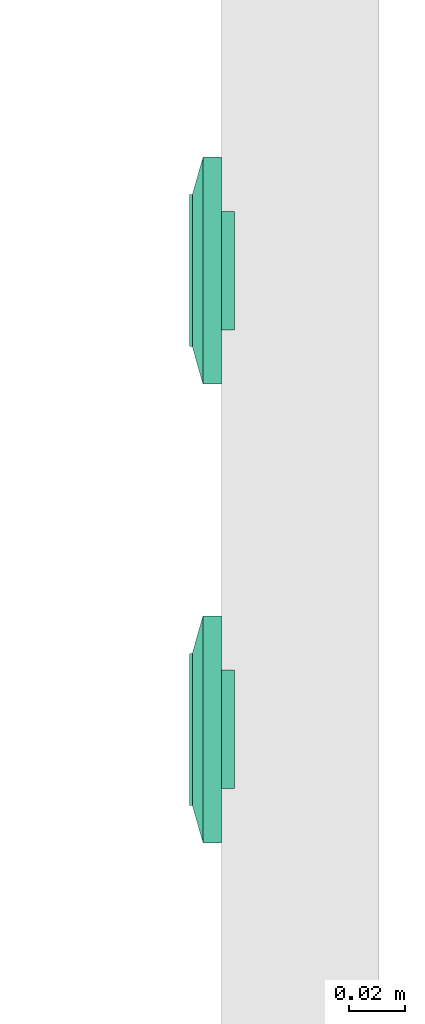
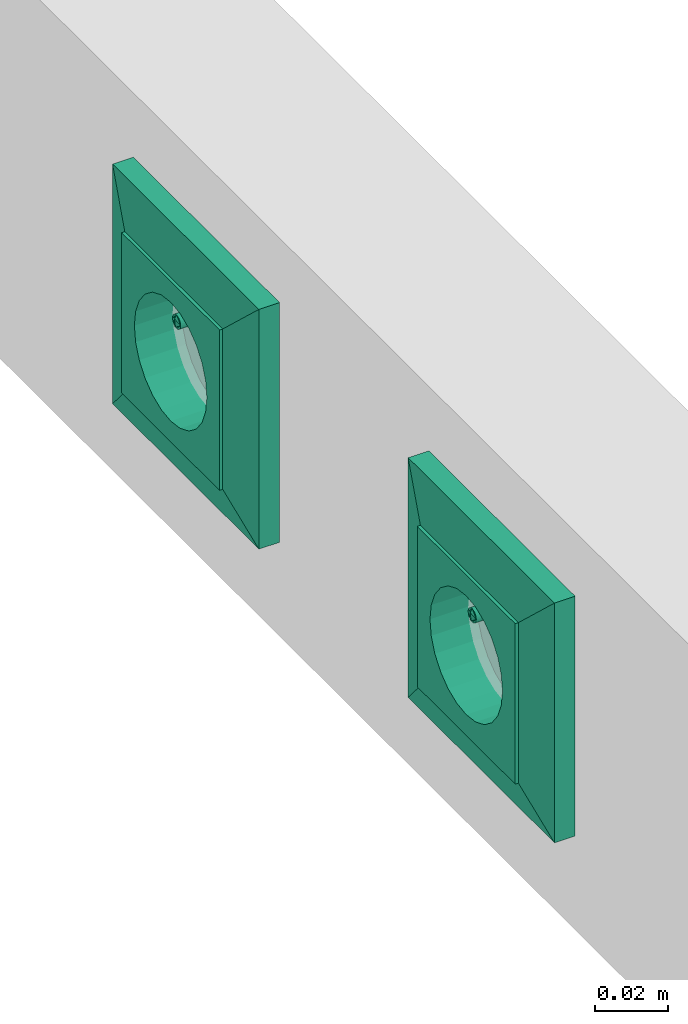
# One storey, part 20 of 166: 2 flow terminals.
"""IFC2X3 building model written with IfcOpenShell, lengths in metres."""

from ifc_helpers import new_model, entity, si_unit, converted_unit, derived_unit, direction, frame, origin, place, context, subcontext, project, spatial, face_set, surface_model, source, transform, mapped, type_object, type_shapes, element, save


model = new_model("IFC2X3")

# Units and contexts
model_context = context("Model", 3, precision=1e-05, world=origin(), true_north=direction((6.12303176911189e-17, 1.0)))
body_context = subcontext(model_context, "Body", "Model", "MODEL_VIEW")
ifc_project = project(units=[si_unit("LENGTHUNIT", "METRE"), si_unit("AREAUNIT", "SQUARE_METRE"), si_unit("VOLUMEUNIT", "CUBIC_METRE"), converted_unit("PLANEANGLEUNIT", "DEGREE", entity("IfcRatioMeasure", 0.0174532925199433), si_unit("PLANEANGLEUNIT", "RADIAN"), dimensions=[0, 0, 0, 0, 0, 0, 0]), si_unit("MASSUNIT", "GRAM", prefix="KILO"), derived_unit("MASSDENSITYUNIT", [(si_unit("MASSUNIT", "GRAM", prefix="KILO"), 1), (si_unit("LENGTHUNIT", "METRE"), -3)]), si_unit("TIMEUNIT", "SECOND"), si_unit("FREQUENCYUNIT", "HERTZ"), si_unit("THERMODYNAMICTEMPERATUREUNIT", "DEGREE_CELSIUS"), derived_unit("THERMALTRANSMITTANCEUNIT", [(si_unit("MASSUNIT", "GRAM", prefix="KILO"), 1), (si_unit("THERMODYNAMICTEMPERATUREUNIT", "KELVIN"), -1), (si_unit("TIMEUNIT", "SECOND"), -3)]), derived_unit("VOLUMETRICFLOWRATEUNIT", [(si_unit("LENGTHUNIT", "METRE"), 3), (si_unit("TIMEUNIT", "SECOND"), -1)]), si_unit("ELECTRICCURRENTUNIT", "AMPERE"), si_unit("ELECTRICVOLTAGEUNIT", "VOLT"), si_unit("POWERUNIT", "WATT"), si_unit("FORCEUNIT", "NEWTON"), si_unit("ILLUMINANCEUNIT", "LUX"), si_unit("LUMINOUSFLUXUNIT", "LUMEN"), si_unit("LUMINOUSINTENSITYUNIT", "CANDELA"), derived_unit("USERDEFINED", [(si_unit("MASSUNIT", "GRAM", prefix="KILO"), -1), (si_unit("LENGTHUNIT", "METRE"), -2), (si_unit("TIMEUNIT", "SECOND"), 3), (si_unit("LUMINOUSFLUXUNIT", "LUMEN"), 1)]), derived_unit("LINEARVELOCITYUNIT", [(si_unit("LENGTHUNIT", "METRE"), 1), (si_unit("TIMEUNIT", "SECOND"), -1)]), si_unit("PRESSUREUNIT", "PASCAL"), derived_unit("USERDEFINED", [(si_unit("LENGTHUNIT", "METRE"), -2), (si_unit("MASSUNIT", "GRAM", prefix="KILO"), 1), (si_unit("TIMEUNIT", "SECOND"), -2)])], contexts=[model_context])

# Site, building, storey
site_placement = place(None, origin())
site = spatial("IfcSite", under=ifc_project, at=site_placement, Name="Default", CompositionType="ELEMENT")
building_placement = place(site_placement, origin())
building = spatial("IfcBuilding", under=site, at=building_placement, CompositionType="ELEMENT")
storey_placement = place(building_placement, frame((0.0, 0.0, 4.27)))
storey = spatial("IfcBuildingStorey", under=building, at=storey_placement, Name="01", CompositionType="ELEMENT", Elevation=4.27)

# Flow terminals
light_fixture_type = type_object("IfcLightFixtureType", Name="PC IP20", PredefinedType="NOTDEFINED")
shared_shape = source(origin(), body_context, "Body", "SurfaceModel", [
    surface_model("IfcFaceBasedSurfaceModel", [(-0.00225000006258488, 0.0127499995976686, 0.00949633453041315), (0.0, 0.0104999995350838, 0.00949633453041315), (0.0, 0.0115376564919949, 0.0101656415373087), (0.0, 0.0139623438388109, 0.0101656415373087), (0.0, 0.0144589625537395, 0.00984531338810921), (0.0, 0.0121178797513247, 0.0102778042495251), (0.0, 0.0133821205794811, 0.0102778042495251), (0.0, 0.0127499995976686, 0.010399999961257), (0.0, 0.0149999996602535, 0.00949633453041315), (0.00225000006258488, 0.0127499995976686, 0.00949633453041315), (0.0, 0.0110410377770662, 0.00984531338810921), (0.0, 0.0127499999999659, 0.00949633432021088), (0.00225000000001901, 0.0127499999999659, 0.00949633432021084), (0.00217333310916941, 0.0121676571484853, 0.00949633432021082), (0.00194855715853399, 0.0116249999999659, 0.00949633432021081), (0.00159099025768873, 0.0111590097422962, 0.00949633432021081), (0.001125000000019, 0.010801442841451, 0.00949633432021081), (0.00058234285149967, 0.0105766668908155, 0.00949633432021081), (0.0, 0.0104999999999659, 0.00949633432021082), (-0.000582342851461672, 0.0105766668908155, 0.00949633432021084), (-0.001124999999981, 0.010801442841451, 0.00949633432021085), (-0.00159099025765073, 0.0111590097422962, 0.00949633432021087), (-0.00194855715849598, 0.011624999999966, 0.00949633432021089), (-0.0021733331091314, 0.0121676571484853, 0.00949633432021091), (-0.00224999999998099, 0.012749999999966, 0.00949633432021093), (-0.00217333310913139, 0.0133323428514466, 0.00949633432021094), (-0.00194855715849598, 0.013874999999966, 0.00949633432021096), (-0.00159099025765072, 0.0143409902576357, 0.00949633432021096), (-0.00112499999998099, 0.0146985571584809, 0.00949633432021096), (-0.00058234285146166, 0.0149233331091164, 0.00949633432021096), (0.0, 0.0149999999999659, 0.00949633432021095), (0.000582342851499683, 0.0149233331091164, 0.00949633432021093), (0.00112500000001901, 0.0146985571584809, 0.00949633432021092), (0.00159099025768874, 0.0143409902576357, 0.00949633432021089), (0.001948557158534, 0.0138749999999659, 0.00949633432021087), (0.00217333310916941, 0.0133323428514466, 0.00949633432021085), (0.00225000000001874, 0.0127499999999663, -0.00360000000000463), (0.00217333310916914, 0.0121676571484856, -0.00360000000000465), (0.00194855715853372, 0.0116249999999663, -0.00360000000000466), (0.00159099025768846, 0.0111590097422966, -0.00360000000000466), (0.00112500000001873, 0.0108014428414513, -0.00360000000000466), (0.000582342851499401, 0.0105766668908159, -0.00360000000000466), (0.0, 0.0104999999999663, -0.00360000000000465), (-0.000582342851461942, 0.0105766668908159, -0.00360000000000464), (-0.00112499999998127, 0.0108014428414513, -0.00360000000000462), (-0.001590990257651, 0.0111590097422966, -0.0036000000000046), (-0.00194855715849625, 0.0116249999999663, -0.00360000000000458), (-0.00217333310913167, 0.0121676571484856, -0.00360000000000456), (-0.00224999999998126, 0.0127499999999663, -0.00360000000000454), (-0.00217333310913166, 0.013332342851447, -0.00360000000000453), (-0.00194855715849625, 0.0138749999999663, -0.00360000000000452), (-0.00159099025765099, 0.014340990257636, -0.00360000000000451), (-0.00112499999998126, 0.0146985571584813, -0.00360000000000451), (-0.000582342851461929, 0.0149233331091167, -0.00360000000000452), (0.0, 0.0149999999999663, -0.00360000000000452), (0.000582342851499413, 0.0149233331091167, -0.00360000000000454), (0.00112500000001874, 0.0146985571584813, -0.00360000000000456), (0.00159099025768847, 0.014340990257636, -0.00360000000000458), (0.00194855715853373, 0.0138749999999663, -0.0036000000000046), (0.00217333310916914, 0.013332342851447, -0.00360000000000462), (0.0270000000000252, 0.026999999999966, 0.0113999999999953), (-0.0269999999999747, 0.026999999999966, 0.0113999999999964), (-0.0269999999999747, -0.0270000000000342, 0.0113999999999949), (0.0270000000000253, -0.0270000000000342, 0.0113999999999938), (-0.0199999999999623, 0.0, 0.0113999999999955), (-0.0193185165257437, -0.00517638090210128, 0.0113999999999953), (-0.0173205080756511, -0.0100000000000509, 0.0113999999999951), (-0.0141421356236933, -0.0141421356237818, 0.011399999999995), (-0.00999999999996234, -0.0173205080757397, 0.0113999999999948), (-0.00517638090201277, -0.0193185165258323, 0.0113999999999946), (0.0, -0.0200000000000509, 0.0113999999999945), (0.00517638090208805, -0.0193185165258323, 0.0113999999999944), (0.0100000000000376, -0.0173205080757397, 0.0113999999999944), (0.0141421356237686, -0.0141421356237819, 0.0113999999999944), (0.0173205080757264, -0.010000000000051, 0.0113999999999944), (0.0193185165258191, -0.00517638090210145, 0.0113999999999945), (0.0200000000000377, 0.0, 0.0113999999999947), (0.0193185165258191, 0.00517638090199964, 0.0113999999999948), (0.0173205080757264, 0.0099999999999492, 0.011399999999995), (0.0141421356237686, 0.0141421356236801, 0.0113999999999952), (0.0100000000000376, 0.0173205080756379, 0.0113999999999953), (0.00517638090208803, 0.0193185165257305, 0.0113999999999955), (0.0, 0.0199999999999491, 0.0113999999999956), (-0.00517638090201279, 0.0193185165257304, 0.0113999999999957), (-0.00999999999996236, 0.0173205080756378, 0.0113999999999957), (-0.0141421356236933, 0.01414213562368, 0.0113999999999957), (-0.0173205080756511, 0.00999999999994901, 0.0113999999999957), (-0.0193185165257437, 0.00517638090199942, 0.0113999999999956), (0.0270000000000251, 0.0269999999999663, 0.00199999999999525), (0.0270000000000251, -0.0270000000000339, 0.00199999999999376), (-0.0269999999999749, -0.0270000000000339, 0.00199999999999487), (-0.0269999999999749, 0.0269999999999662, 0.00199999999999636), (0.0210000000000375, 0.0, 0.00199999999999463), (0.0202844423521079, -0.00543519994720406, 0.00199999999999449), (0.0181865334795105, -0.0105000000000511, 0.0019999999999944), (0.0148492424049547, -0.0148492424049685, 0.00199999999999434), (0.0105000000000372, -0.0181865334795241, 0.00199999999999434), (0.0054351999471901, -0.0202844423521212, 0.00199999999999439), (0.0, -0.0210000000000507, 0.00199999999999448), (-0.00543519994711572, -0.020284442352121, 0.00199999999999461), (-0.0104999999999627, -0.0181865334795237, 0.00199999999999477), (-0.0148492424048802, -0.014849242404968, 0.00199999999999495), (-0.0181865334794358, -0.0105000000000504, 0.00199999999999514), (-0.020284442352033, -0.00543519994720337, 0.00199999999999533), (-0.0209999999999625, 0.0, 0.00199999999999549), (-0.0202844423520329, 0.0054351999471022, 0.00199999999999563), (-0.0181865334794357, 0.0104999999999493, 0.00199999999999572), (-0.01484924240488, 0.0148492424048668, 0.00199999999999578), (-0.0104999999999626, 0.0181865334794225, 0.00199999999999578), (-0.00543519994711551, 0.0202844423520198, 0.00199999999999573), (0.0, 0.0209999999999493, 0.00199999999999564), (0.00543519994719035, 0.0202844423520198, 0.00199999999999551), (0.0105000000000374, 0.0181865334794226, 0.00199999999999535), (0.0148492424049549, 0.0148492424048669, 0.00199999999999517), (0.0181865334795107, 0.0104999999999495, 0.00199999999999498), (0.0202844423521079, 0.00543519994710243, 0.00199999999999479), (0.0200000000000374, 0.0, -0.00360000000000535), (0.0193185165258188, -0.00517638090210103, -0.00360000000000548), (0.0173205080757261, -0.0100000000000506, -0.00360000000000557), (0.0141421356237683, -0.0141421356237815, -0.00360000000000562), (0.0100000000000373, -0.0173205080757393, -0.00360000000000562), (0.00517638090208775, -0.0193185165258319, -0.00360000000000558), (0.0, -0.0200000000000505, -0.00360000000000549), (-0.00517638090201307, -0.0193185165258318, -0.00360000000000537), (-0.00999999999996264, -0.0173205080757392, -0.00360000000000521), (-0.0141421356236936, -0.0141421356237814, -0.00360000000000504), (-0.0173205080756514, -0.0100000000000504, -0.00360000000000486), (-0.019318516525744, -0.00517638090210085, -0.00360000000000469), (-0.0199999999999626, 0.0, -0.00360000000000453), (-0.0193185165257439, 0.00517638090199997, -0.0036000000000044), (-0.0173205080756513, 0.00999999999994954, -0.00360000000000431), (-0.0141421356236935, 0.0141421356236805, -0.00360000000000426), (-0.00999999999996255, 0.0173205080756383, -0.00360000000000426), (-0.00517638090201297, 0.0193185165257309, -0.0036000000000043), (0.0, 0.0199999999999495, -0.00360000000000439), (0.00517638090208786, 0.0193185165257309, -0.00360000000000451), (0.0100000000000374, 0.0173205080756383, -0.00360000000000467), (0.0141421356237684, 0.0141421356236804, -0.00360000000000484), (0.0173205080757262, 0.0099999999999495, -0.00360000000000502), (0.0193185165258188, 0.00517638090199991, -0.00360000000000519), (-0.0123499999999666, 0.0, -0.00360000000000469), (-0.0122562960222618, -0.000711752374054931, -0.00360000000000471), (-0.0119815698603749, -0.00137500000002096, -0.00360000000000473), (-0.0115445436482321, -0.00194454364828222, -0.00360000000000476), (-0.0109749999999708, -0.00238156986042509, -0.00360000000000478), (-0.0103117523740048, -0.00265629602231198, -0.0036000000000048), (-0.00959999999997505, -0.00275000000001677, -0.00360000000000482), (-0.0088882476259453, -0.00265629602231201, -0.00360000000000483), (-0.00822499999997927, -0.00238156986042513, -0.00360000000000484), (-0.00765545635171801, -0.00194454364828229, -0.00360000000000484), (-0.00721843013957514, -0.00137500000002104, -0.00360000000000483), (-0.00694370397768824, -0.000711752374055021, -0.00360000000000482), (-0.00684999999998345, 0.0, -0.0036000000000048), (-0.00694370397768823, 0.000711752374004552, -0.00360000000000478), (-0.00721843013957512, 0.00137499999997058, -0.00360000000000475), (-0.00765545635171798, 0.00194454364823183, -0.00360000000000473), (-0.00822499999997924, 0.00238156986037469, -0.0036000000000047), (-0.00888824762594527, 0.00265629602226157, -0.00360000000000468), (-0.00959999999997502, 0.00274999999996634, -0.00360000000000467), (-0.0103117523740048, 0.00265629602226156, -0.00360000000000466), (-0.0109749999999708, 0.00238156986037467, -0.00360000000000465), (-0.011544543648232, 0.00194454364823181, -0.00360000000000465), (-0.0119815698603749, 0.00137499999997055, -0.00360000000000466), (-0.0122562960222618, 0.000711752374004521, -0.00360000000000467), (0.00685000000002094, 0.0, -0.00360000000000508), (0.0069437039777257, -0.00071175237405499, -0.0036000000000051), (0.00721843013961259, -0.00137500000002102, -0.00360000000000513), (0.00765545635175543, -0.00194454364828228, -0.00360000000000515), (0.00822500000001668, -0.00238156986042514, -0.00360000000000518), (0.00888824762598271, -0.00265629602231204, -0.0036000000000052), (0.00960000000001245, -0.00275000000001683, -0.00360000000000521), (0.0103117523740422, -0.00265629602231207, -0.00360000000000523), (0.0109750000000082, -0.00238156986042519, -0.00360000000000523), (0.0115445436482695, -0.00194454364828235, -0.00360000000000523), (0.0119815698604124, -0.0013750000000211, -0.00360000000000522), (0.0122562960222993, -0.00071175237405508, -0.00360000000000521), (0.012350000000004, 0.0, -0.00360000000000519), (0.0122562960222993, 0.000711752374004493, -0.00360000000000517), (0.0119815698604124, 0.00137499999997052, -0.00360000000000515), (0.0115445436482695, 0.00194454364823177, -0.00360000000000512), (0.0109750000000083, 0.00238156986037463, -0.0036000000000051), (0.0103117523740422, 0.00265629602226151, -0.00360000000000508), (0.00960000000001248, 0.00274999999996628, -0.00360000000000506), (0.00888824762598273, 0.0026562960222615, -0.00360000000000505), (0.0082250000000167, 0.00238156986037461, -0.00360000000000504), (0.00765545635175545, 0.00194454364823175, -0.00360000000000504), (0.0072184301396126, 0.00137499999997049, -0.00360000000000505), (0.00694370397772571, 0.000711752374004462, -0.00360000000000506), (0.0210000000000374, 0.0, -0.00460000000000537), (0.0202844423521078, -0.00543519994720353, -0.00460000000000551), (0.0181865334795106, -0.0105000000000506, -0.0046000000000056), (0.0148492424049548, -0.0148492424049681, -0.00460000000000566), (0.0105000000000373, -0.0181865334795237, -0.00460000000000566), (0.00543519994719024, -0.0202844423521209, -0.00460000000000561), (0.0, -0.0210000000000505, -0.00460000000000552), (-0.00543519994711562, -0.0202844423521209, -0.00460000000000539), (-0.0104999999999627, -0.0181865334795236, -0.00460000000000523), (-0.0148492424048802, -0.0148492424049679, -0.00460000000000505), (-0.0181865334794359, -0.0105000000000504, -0.00460000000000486), (-0.0202844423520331, -0.00543519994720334, -0.00460000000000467), (-0.0209999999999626, 0.0, -0.00460000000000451), (-0.020284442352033, 0.00543519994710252, -0.00460000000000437), (-0.0181865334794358, 0.0104999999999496, -0.00460000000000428), (-0.0148492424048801, 0.0148492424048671, -0.00460000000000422), (-0.0104999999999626, 0.0181865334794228, -0.00460000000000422), (-0.00543519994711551, 0.02028444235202, -0.00460000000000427), (0.0, 0.0209999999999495, -0.00460000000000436), (0.00543519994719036, 0.02028444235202, -0.00460000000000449), (0.0105000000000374, 0.0181865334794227, -0.00460000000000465), (0.0148492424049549, 0.014849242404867, -0.00460000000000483), (0.0181865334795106, 0.0104999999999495, -0.00460000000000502), (0.0202844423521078, 0.00543519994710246, -0.00460000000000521), (-0.00684999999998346, 0.0, -0.0046000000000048), (-0.00694370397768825, 0.000711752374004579, -0.00460000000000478), (-0.00721843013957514, 0.00137499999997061, -0.00460000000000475), (-0.007655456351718, 0.00194454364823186, -0.00460000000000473), (-0.00822499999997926, 0.00238156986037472, -0.0046000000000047), (-0.00888824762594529, 0.0026562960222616, -0.00460000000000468), (-0.00959999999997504, 0.00274999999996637, -0.00460000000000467), (-0.0103117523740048, 0.00265629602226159, -0.00460000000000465), (-0.0109749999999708, 0.0023815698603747, -0.00460000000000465), (-0.0115445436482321, 0.00194454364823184, -0.00460000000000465), (-0.0119815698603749, 0.00137499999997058, -0.00460000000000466), (-0.0122562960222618, 0.000711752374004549, -0.00460000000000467), (-0.0123499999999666, 0.0, -0.00460000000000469), (-0.0122562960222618, -0.000711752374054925, -0.00460000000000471), (-0.0119815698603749, -0.00137500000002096, -0.00460000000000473), (-0.0115445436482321, -0.00194454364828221, -0.00460000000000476), (-0.0109749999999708, -0.00238156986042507, -0.00460000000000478), (-0.0103117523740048, -0.00265629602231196, -0.0046000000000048), (-0.00959999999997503, -0.00275000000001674, -0.00460000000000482), (-0.00888824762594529, -0.00265629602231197, -0.00460000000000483), (-0.00822499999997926, -0.00238156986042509, -0.00460000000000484), (-0.007655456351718, -0.00194454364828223, -0.00460000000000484), (-0.00721843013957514, -0.00137500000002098, -0.00460000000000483), (-0.00694370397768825, -0.000711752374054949, -0.00460000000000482), (0.012350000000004, 0.0, -0.00460000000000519), (0.0122562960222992, 0.000711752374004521, -0.00460000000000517), (0.0119815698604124, 0.00137499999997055, -0.00460000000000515), (0.0115445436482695, 0.0019445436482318, -0.00460000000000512), (0.0109750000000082, 0.00238156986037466, -0.0046000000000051), (0.0103117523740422, 0.00265629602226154, -0.00460000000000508), (0.00960000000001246, 0.00274999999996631, -0.00460000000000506), (0.00888824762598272, 0.00265629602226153, -0.00460000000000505), (0.00822500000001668, 0.00238156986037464, -0.00460000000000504), (0.00765545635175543, 0.00194454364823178, -0.00460000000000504), (0.00721843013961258, 0.00137499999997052, -0.00460000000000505), (0.00694370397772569, 0.00071175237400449, -0.00460000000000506), (0.00685000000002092, 0.0, -0.00460000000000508), (0.00694370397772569, -0.000711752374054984, -0.0046000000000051), (0.00721843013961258, -0.00137500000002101, -0.00460000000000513), (0.00765545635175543, -0.00194454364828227, -0.00460000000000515), (0.00822500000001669, -0.00238156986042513, -0.00460000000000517), (0.00888824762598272, -0.00265629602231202, -0.0046000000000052), (0.00960000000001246, -0.0027500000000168, -0.00460000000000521), (0.0103117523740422, -0.00265629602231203, -0.00460000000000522), (0.0109750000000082, -0.00238156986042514, -0.00460000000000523), (0.0115445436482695, -0.00194454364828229, -0.00460000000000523), (0.0119815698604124, -0.00137500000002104, -0.00460000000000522), (0.0122562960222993, -0.000711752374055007, -0.00460000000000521), (0.040350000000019, 0.0403499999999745, 0.00659999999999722), (0.040350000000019, -0.0403500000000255, 0.00659999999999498), (-0.0403499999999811, -0.0403500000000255, 0.00659999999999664), (-0.0403499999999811, 0.0403499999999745, 0.00659999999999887), (0.027000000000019, 0.0269999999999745, 0.00659999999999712), (-0.0269999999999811, 0.0269999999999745, 0.00659999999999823), (-0.026999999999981, -0.0270000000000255, 0.00659999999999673), (0.027000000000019, -0.0270000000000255, 0.00659999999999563), (0.027000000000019, 0.0269999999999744, 0.0103999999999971), (-0.026999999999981, 0.0269999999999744, 0.0103999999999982), (-0.026999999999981, -0.0270000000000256, 0.0103999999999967), (0.027000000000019, -0.0270000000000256, 0.0103999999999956), (0.040350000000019, 0.0403499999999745, 0.00659999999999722), (0.040350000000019, -0.0403500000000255, 0.00659999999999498), (-0.0403499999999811, -0.0403500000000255, 0.00659999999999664), (-0.0403499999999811, 0.0403499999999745, 0.00659999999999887), (-0.0269999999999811, 0.0269999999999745, 0.00659999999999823), (-0.0269999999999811, -0.0270000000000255, 0.00659999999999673), (0.0270000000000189, -0.0270000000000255, 0.00659999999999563), (0.0270000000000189, 0.0269999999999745, 0.00659999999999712), (0.0403500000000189, 0.0403499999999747, 0.0), (0.0403500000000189, -0.0403500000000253, 0.0), (-0.0403499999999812, -0.0403500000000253, 0.0), (-0.0403499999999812, 0.0403499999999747, 0.0), (0.0270000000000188, 0.0269999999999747, 0.0), (-0.0269999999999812, 0.0269999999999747, 0.0), (-0.0269999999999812, -0.0270000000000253, 0.0), (0.0270000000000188, -0.0270000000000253, 0.0)], [face_set([[[0, 1, 2]], [[3, 4, 2, 5]], [[6, 3, 5, 7]], [[2, 4, 0]], [[4, 8, 0]], [[3, 9, 8]], [[1, 9, 10]], [[2, 3, 6, 7]], [[3, 10, 9]], [[2, 10, 3]], [[11, 1, 0, 8]], [[11, 8, 9, 1]]]), face_set([[[12, 13, 14, 15, 16, 17, 18, 19, 20, 21, 22, 23, 24, 25, 26, 27, 28, 29, 30, 31, 32, 33, 34, 35]], [[36, 37, 38, 39, 40, 41, 42, 43, 44, 45, 46, 47, 48, 49, 50, 51, 52, 53, 54, 55, 56, 57, 58, 59]], [[48, 47, 23, 24]], [[47, 46, 22, 23]], [[45, 44, 20, 21]], [[46, 45, 21, 22]], [[44, 43, 19, 20]], [[18, 19, 43, 42]], [[42, 41, 17, 18]], [[41, 40, 16, 17]], [[39, 38, 14, 15]], [[40, 39, 15, 16]], [[38, 37, 13, 14]], [[12, 13, 37, 36]], [[36, 59, 35, 12]], [[59, 58, 34, 35]], [[57, 56, 32, 33]], [[58, 57, 33, 34]], [[56, 55, 31, 32]], [[30, 31, 55, 54]], [[54, 53, 29, 30]], [[53, 52, 28, 29]], [[51, 50, 26, 27]], [[52, 51, 27, 28]], [[50, 49, 25, 26]], [[24, 25, 49, 48]]]), face_set([[[60, 61, 62, 63], [64, 65, 66, 67, 68, 69, 70, 71, 72, 73, 74, 75, 76, 77, 78, 79, 80, 81, 82, 83, 84, 85, 86, 87]], [[88, 89, 90, 91], [92, 93, 94, 95, 96, 97, 98, 99, 100, 101, 102, 103, 104, 105, 106, 107, 108, 109, 110, 111, 112, 113, 114, 115]], [[61, 60, 88, 91]], [[62, 61, 91, 90]], [[63, 62, 90, 89]], [[60, 63, 89, 88]], [[116, 117, 118, 119, 120, 121, 122, 123, 124, 125, 126, 127, 128, 129, 130, 131, 132, 133, 134, 135, 136, 137, 138, 139], [140, 141, 142, 143, 144, 145, 146, 147, 148, 149, 150, 151, 152, 153, 154, 155, 156, 157, 158, 159, 160, 161, 162, 163], [164, 165, 166, 167, 168, 169, 170, 171, 172, 173, 174, 175, 176, 177, 178, 179, 180, 181, 182, 183, 184, 185, 186, 187]], [[64, 128, 127, 65]], [[65, 127, 126, 66]], [[67, 125, 124, 68]], [[66, 126, 125, 67]], [[68, 124, 123, 69]], [[122, 70, 69, 123]], [[70, 122, 121, 71]], [[71, 121, 120, 72]], [[73, 119, 118, 74]], [[72, 120, 119, 73]], [[74, 118, 117, 75]], [[116, 76, 75, 117]], [[76, 116, 139, 77]], [[77, 139, 138, 78]], [[79, 137, 136, 80]], [[78, 138, 137, 79]], [[80, 136, 135, 81]], [[134, 82, 81, 135]], [[82, 134, 133, 83]], [[83, 133, 132, 84]], [[84, 132, 131, 85]], [[85, 131, 130, 86]], [[130, 129, 87, 86]], [[64, 87, 129, 128]], [[188, 189, 190, 191, 192, 193, 194, 195, 196, 197, 198, 199, 200, 201, 202, 203, 204, 205, 206, 207, 208, 209, 210, 211], [212, 213, 214, 215, 216, 217, 218, 219, 220, 221, 222, 223, 224, 225, 226, 227, 228, 229, 230, 231, 232, 233, 234, 235], [236, 237, 238, 239, 240, 241, 242, 243, 244, 245, 246, 247, 248, 249, 250, 251, 252, 253, 254, 255, 256, 257, 258, 259]], [[200, 199, 103, 104]], [[199, 198, 102, 103]], [[197, 196, 100, 101]], [[198, 197, 101, 102]], [[196, 195, 99, 100]], [[98, 99, 195, 194]], [[194, 193, 97, 98]], [[193, 192, 96, 97]], [[191, 190, 94, 95]], [[192, 191, 95, 96]], [[190, 189, 93, 94]], [[92, 93, 189, 188]], [[188, 211, 115, 92]], [[211, 210, 114, 115]], [[209, 208, 112, 113]], [[210, 209, 113, 114]], [[208, 207, 111, 112]], [[110, 111, 207, 206]], [[206, 205, 109, 110]], [[205, 204, 108, 109]], [[203, 202, 106, 107]], [[204, 203, 107, 108]], [[202, 201, 105, 106]], [[104, 105, 201, 200]], [[141, 225, 226, 142]], [[140, 224, 225, 141]], [[144, 228, 229, 145]], [[143, 227, 228, 144]], [[142, 226, 227, 143]], [[230, 146, 145, 229]], [[149, 233, 232, 148]], [[148, 232, 231, 147]], [[152, 212, 235, 151]], [[151, 235, 234, 150]], [[150, 234, 233, 149]], [[146, 230, 231, 147]], [[154, 214, 213, 153]], [[153, 213, 212, 152]], [[157, 217, 216, 156]], [[156, 216, 215, 155]], [[155, 215, 214, 154]], [[218, 158, 157, 217]], [[160, 220, 221, 161]], [[159, 219, 220, 160]], [[163, 223, 224, 140]], [[162, 222, 223, 163]], [[161, 221, 222, 162]], [[158, 218, 219, 159]], [[166, 250, 249, 165]], [[165, 249, 248, 164]], [[169, 253, 252, 168]], [[168, 252, 251, 167]], [[167, 251, 250, 166]], [[254, 170, 169, 253]], [[172, 256, 257, 173]], [[171, 255, 256, 172]], [[175, 259, 236, 176]], [[174, 258, 259, 175]], [[173, 257, 258, 174]], [[170, 254, 255, 171]], [[177, 237, 238, 178]], [[176, 236, 237, 177]], [[180, 240, 241, 181]], [[179, 239, 240, 180]], [[178, 238, 239, 179]], [[242, 182, 181, 241]], [[185, 245, 244, 184]], [[184, 244, 243, 183]], [[164, 248, 247, 187]], [[187, 247, 246, 186]], [[186, 246, 245, 185]], [[182, 242, 243, 183]]]), face_set([[[260, 261, 262, 263], [264, 265, 266, 267]], [[260, 268, 269, 263]], [[263, 269, 270, 262]], [[262, 270, 271, 261]], [[261, 271, 268, 260]], [[264, 265, 269, 268]], [[265, 266, 270, 269]], [[266, 267, 271, 270]], [[268, 271, 267, 264]]]), face_set([[[272, 273, 274, 275], [276, 277, 278, 279]], [[280, 281, 282, 283], [284, 285, 286, 287]], [[275, 272, 280, 283]], [[274, 275, 283, 282]], [[273, 274, 282, 281]], [[272, 273, 281, 280]], [[284, 285, 276, 279]], [[285, 286, 277, 276]], [[286, 287, 278, 277]], [[279, 278, 287, 284]]])]),
])
type_shapes(light_fixture_type, [shared_shape])
for number, where, z_axis, x_axis in (
    (1, (29.3537440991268, -191.878554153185, 4.70800000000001), (-1.0, 0.0, 0.0), (0.0, -1.0, 0.0)),
    (2, (29.3537440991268, -192.041554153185, 4.70800000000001), (-1.0, 0.0, 0.0), (0.0, -1.0, 0.0)),
):
    element("IfcFlowTerminal", number, at=place(building_placement, frame(where, z_axis=z_axis, x_axis=x_axis)), inside=storey, type_object=light_fixture_type, Name="INT Prise de courant:PC IP20", ObjectType="INT Prise de courant:PC IP20", context=body_context, shape_type="MappedRepresentation", body=[
        mapped(shared_shape, transform((0.0, 0.0, 0.0), scale=1.0)),
    ])

save(model, "model.ifc")
